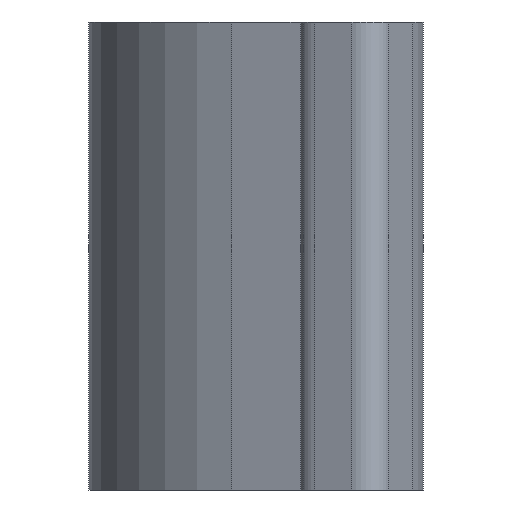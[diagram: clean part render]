
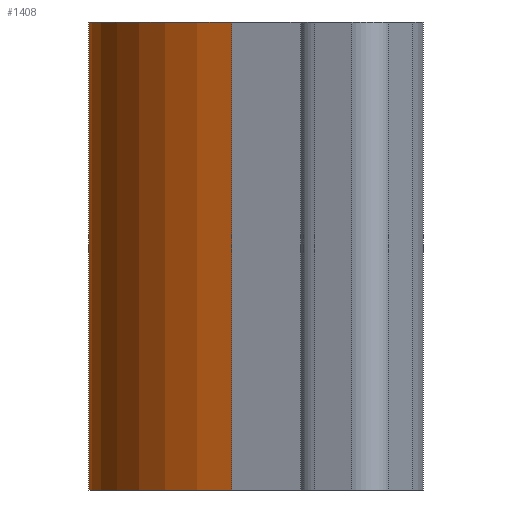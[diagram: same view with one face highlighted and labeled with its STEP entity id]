
A CAD part, left-side view. The second image highlights one B-rep face of the part: STEP entity #1408.
In plain terms, the highlighted cylindrical face has radius 16.875 mm (diameter 33.75 mm), a partial arc.
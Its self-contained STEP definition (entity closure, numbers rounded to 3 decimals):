
#48 = AXIS2_PLACEMENT_3D ( 'NONE', #268, #1196, #1337 ) ;
#98 = EDGE_LOOP ( 'NONE', ( #2351, #1639, #1812, #2219 ) ) ;
#99 = DIRECTION ( 'NONE',  ( 0., 0., 1. ) ) ;
#189 = CARTESIAN_POINT ( 'NONE',  ( 30.875, 20., -16. ) ) ;
#268 = CARTESIAN_POINT ( 'NONE',  ( 14., 20., 34. ) ) ;
#341 = DIRECTION ( 'NONE',  ( 0., 0., 1. ) ) ;
#394 = VECTOR ( 'NONE', #850, 1000. ) ;
#489 = CARTESIAN_POINT ( 'NONE',  ( 14., 20., -16. ) ) ;
#532 = VERTEX_POINT ( 'NONE', #1807 ) ;
#718 = DIRECTION ( 'NONE',  ( 0., 0., 1. ) ) ;
#756 = CIRCLE ( 'NONE', #1997, 16.875 ) ;
#790 = VERTEX_POINT ( 'NONE', #1367 ) ;
#840 = VERTEX_POINT ( 'NONE', #1246 ) ;
#850 = DIRECTION ( 'NONE',  ( 0., 0., 1. ) ) ;
#894 = CARTESIAN_POINT ( 'NONE',  ( 14., 20., 0. ) ) ;
#958 = LINE ( 'NONE', #189, #1980 ) ;
#1129 = CARTESIAN_POINT ( 'NONE',  ( 14.802, 36.856, 34. ) ) ;
#1196 = DIRECTION ( 'NONE',  ( 0., 0., -1. ) ) ;
#1203 = EDGE_CURVE ( 'NONE', #2188, #840, #2002, .T. ) ;
#1210 = LINE ( 'NONE', #2329, #394 ) ;
#1246 = CARTESIAN_POINT ( 'NONE',  ( 30.875, 20., 34. ) ) ;
#1337 = DIRECTION ( 'NONE',  ( 1., 0., 0. ) ) ;
#1367 = CARTESIAN_POINT ( 'NONE',  ( 30.875, 20., 0. ) ) ;
#1370 = EDGE_CURVE ( 'NONE', #532, #2188, #1210, .T. ) ;
#1408 = ADVANCED_FACE ( 'NONE', ( #1828 ), #2346, .T. ) ;
#1412 = AXIS2_PLACEMENT_3D ( 'NONE', #489, #99, #2166 ) ;
#1639 = ORIENTED_EDGE ( 'NONE', *, *, #1888, .T. ) ;
#1807 = CARTESIAN_POINT ( 'NONE',  ( 14.802, 36.856, 0. ) ) ;
#1812 = ORIENTED_EDGE ( 'NONE', *, *, #1370, .T. ) ;
#1828 = FACE_OUTER_BOUND ( 'NONE', #98, .T. ) ;
#1846 = DIRECTION ( 'NONE',  ( -1., 0., 0. ) ) ;
#1888 = EDGE_CURVE ( 'NONE', #790, #532, #756, .T. ) ;
#1980 = VECTOR ( 'NONE', #718, 1000. ) ;
#1997 = AXIS2_PLACEMENT_3D ( 'NONE', #894, #341, #1846 ) ;
#2002 = CIRCLE ( 'NONE', #48, 16.875 ) ;
#2022 = EDGE_CURVE ( 'NONE', #790, #840, #958, .T. ) ;
#2166 = DIRECTION ( 'NONE',  ( 1., 0., 0. ) ) ;
#2188 = VERTEX_POINT ( 'NONE', #1129 ) ;
#2219 = ORIENTED_EDGE ( 'NONE', *, *, #1203, .T. ) ;
#2329 = CARTESIAN_POINT ( 'NONE',  ( 14.802, 36.856, -16. ) ) ;
#2346 = CYLINDRICAL_SURFACE ( 'NONE', #1412, 16.875 ) ;
#2351 = ORIENTED_EDGE ( 'NONE', *, *, #2022, .F. ) ;
